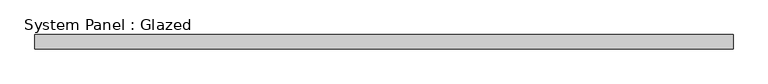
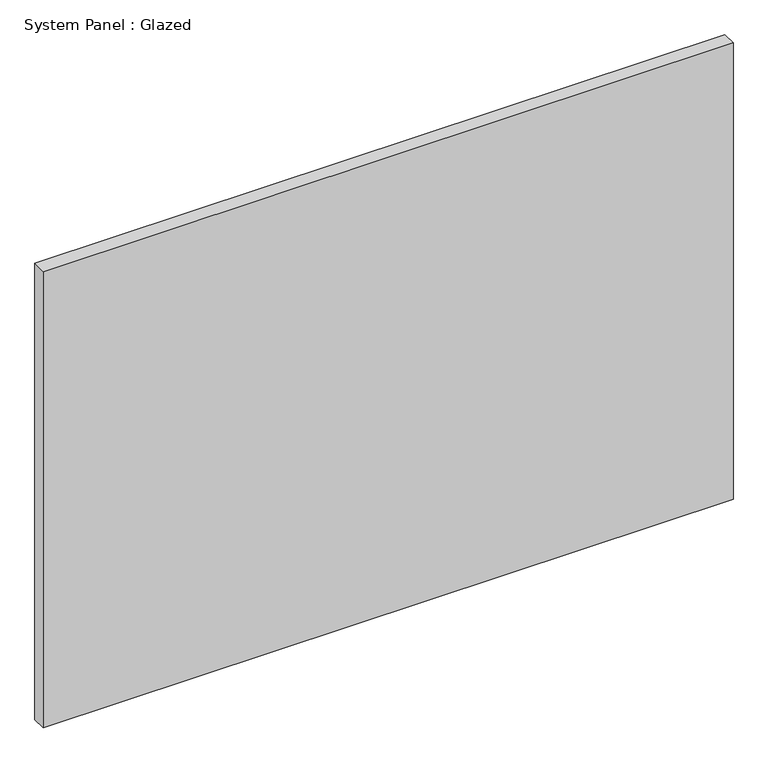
"""IFC4 building model written with IfcOpenShell, lengths in millimetres: plate geometry, System Panel : Glazed."""

from ifc_helpers import new_model, si_unit, origin, origin_with_axes, place, context, project, spatial, polyline, outline, extrude, source, transform, mapped, element, save


def system_panel_glazed_968bda60(model_context):
    return source(origin(), model_context, "Body", "SweptSolid", [
        extrude(outline(polyline([(622.3, 19.05), (-622.3, 19.05), (-622.3, 44.45), (622.3, 44.45), (622.3, 19.05)])), origin_with_axes(), (0.0, 0.0, 1.0), 869.95),
    ])


if __name__ == "__main__":
    model = new_model("IFC4")
    model_context = context("Model", 3, world=origin())
    ifc_project = project(units=[si_unit("LENGTHUNIT", "METRE", prefix="MILLI")], contexts=[model_context])
    site = spatial("IfcSite", under=ifc_project)
    building = spatial("IfcBuilding", under=site)
    placement = place(None, origin())
    system_panel_glazed_shape = system_panel_glazed_968bda60(model_context)
    element("IfcPlate", 1, ObjectType="System Panel : Glazed", at=placement, inside=building, context=model_context, shape_type="MappedRepresentation", body=[
        mapped(system_panel_glazed_shape, transform((0.0, 0.0, 0.0), x_axis=(1.0, 0.0, 0.0), y_axis=(0.0, 1.0, 0.0), z_axis=(0.0, 0.0, 1.0))),
    ])
    save(model, "model.ifc")
